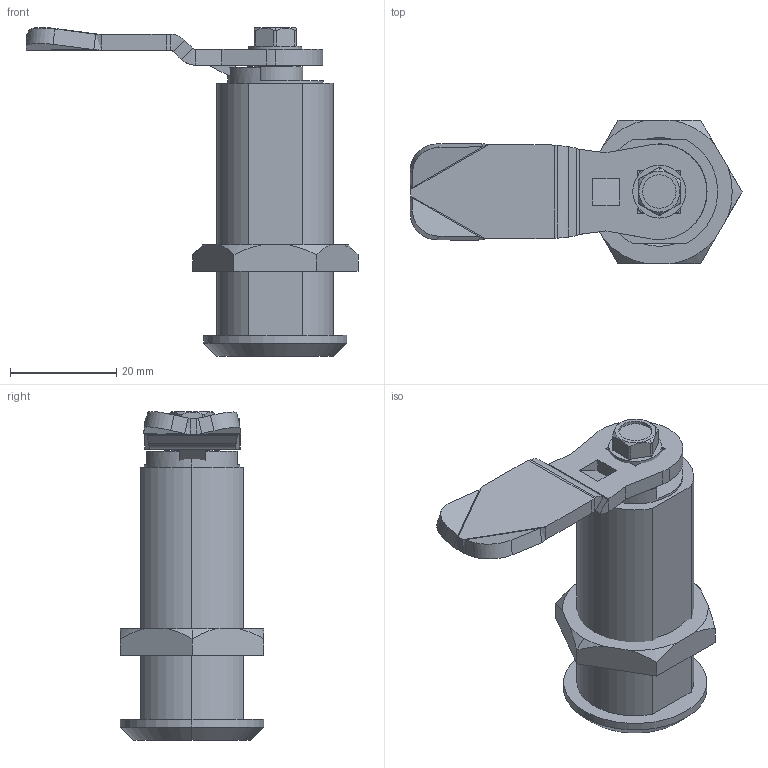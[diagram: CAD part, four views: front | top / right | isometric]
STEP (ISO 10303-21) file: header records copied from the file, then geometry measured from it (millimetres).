
FILE_DESCRIPTION (( 'STEP AP214' ), '1' );
FILE_NAME ('2.ZZR50.STEP', '2010-02-18T16:32:57', ( 'abc' ), ( '' ), 'SwSTEP 2.0', 'SolidWorks 2004231', '' );
FILE_SCHEMA (( 'AUTOMOTIVE_DESIGN' ));
Length unit declared in the file: millimetre
Products named in the file (6): 2.ZZR50; 2.ZZR50.00.00.02_Domyœlna_Domyœlna; 2.ZZR50.00.00.04_Domyœlna_Domyœlna; 2.ZZR50.00.00.03_Domyœlna_Domyœlna; 2.ZZR50.00.00.01_Domyœlna_Domyœlna; Sruba M6_Domyœlna_Domyœlna
Assembly tree (5 placements, depth 2):
  2.ZZR50
    2.ZZR50.00.00.01_Domyœlna_Domyœlna
    2.ZZR50.00.00.02_Domyœlna_Domyœlna
    2.ZZR50.00.00.03_Domyœlna_Domyœlna
    Sruba M6_Domyœlna_Domyœlna
    2.ZZR50.00.00.04_Domyœlna_Domyœlna
Bounding box: 62.58 x 27 x 62 mm (x, y, z)
Volume: 22594.8 mm3; surface area: 14328.7 mm2
Topology: 6 solids, 6 shells, 171 faces, 407 edges, 256 vertices
Faces by surface type: plane 88, cylinder 54, cone 21, bspline 8
Entity records: 7353 total; most frequent: CARTESIAN_POINT 1334, DIRECTION 820, ORIENTED_EDGE 810, EDGE_CURVE 405, AXIS2_PLACEMENT_3D 290, VERTEX_POINT 256, VECTOR 240, LINE 240
